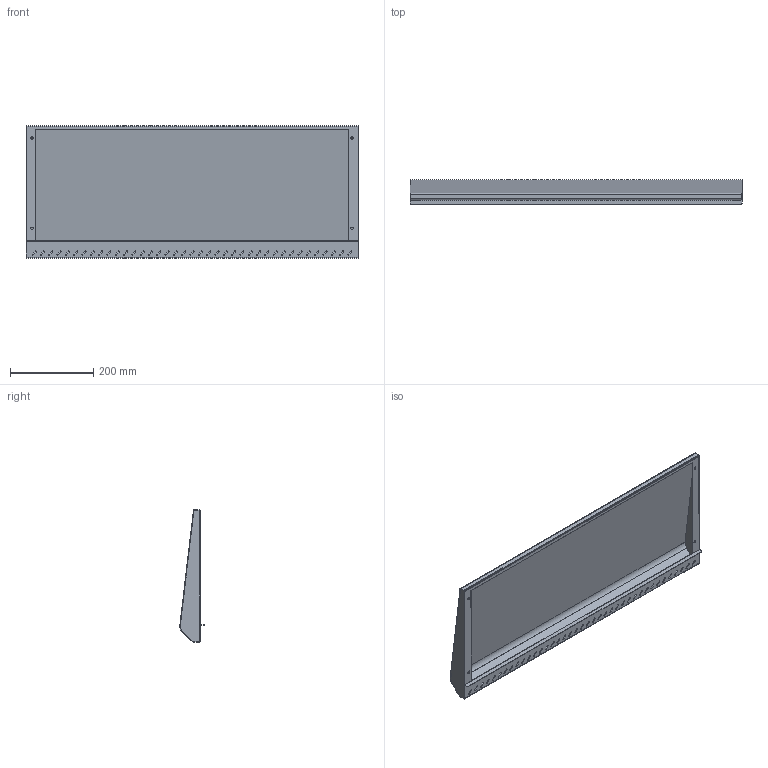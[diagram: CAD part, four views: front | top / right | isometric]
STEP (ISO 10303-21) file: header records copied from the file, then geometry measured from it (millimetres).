
FILE_DESCRIPTION (( 'STEP AP203' ), '1' );
FILE_NAME ('ECTT080030X.STEP', '2023-04-17T06:48:29', ( '' ), ( '' ), 'SwSTEP 2.0', 'SolidWorks 2022', '' );
FILE_SCHEMA (( 'CONFIG_CONTROL_DESIGN' ));
Length unit declared in the file: millimetre
Products named in the file (1): ECTT080030X
Bounding box: 799 x 58.98 x 320 mm (x, y, z)
Volume: 440518.7 mm3; surface area: 738148.9 mm2
Topology: 1 solids, 1 shells, 193 faces, 574 edges, 384 vertices
Faces by surface type: plane 99, cylinder 94
Full cylindrical faces by diameter (mm): 6 x4
Entity records: 6721 total; most frequent: DIRECTION 1142, CARTESIAN_POINT 1140, ORIENTED_EDGE 1132, EDGE_CURVE 566, AXIS2_PLACEMENT_3D 382, VERTEX_POINT 380, LINE 378, VECTOR 378
